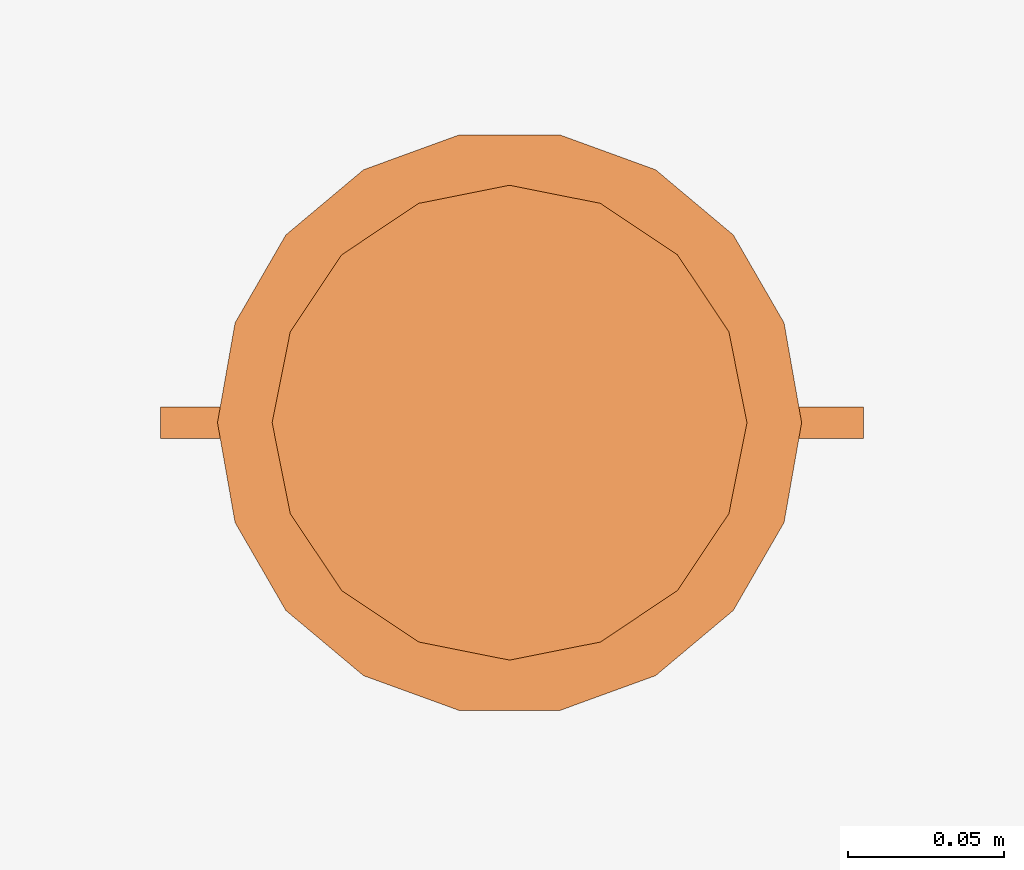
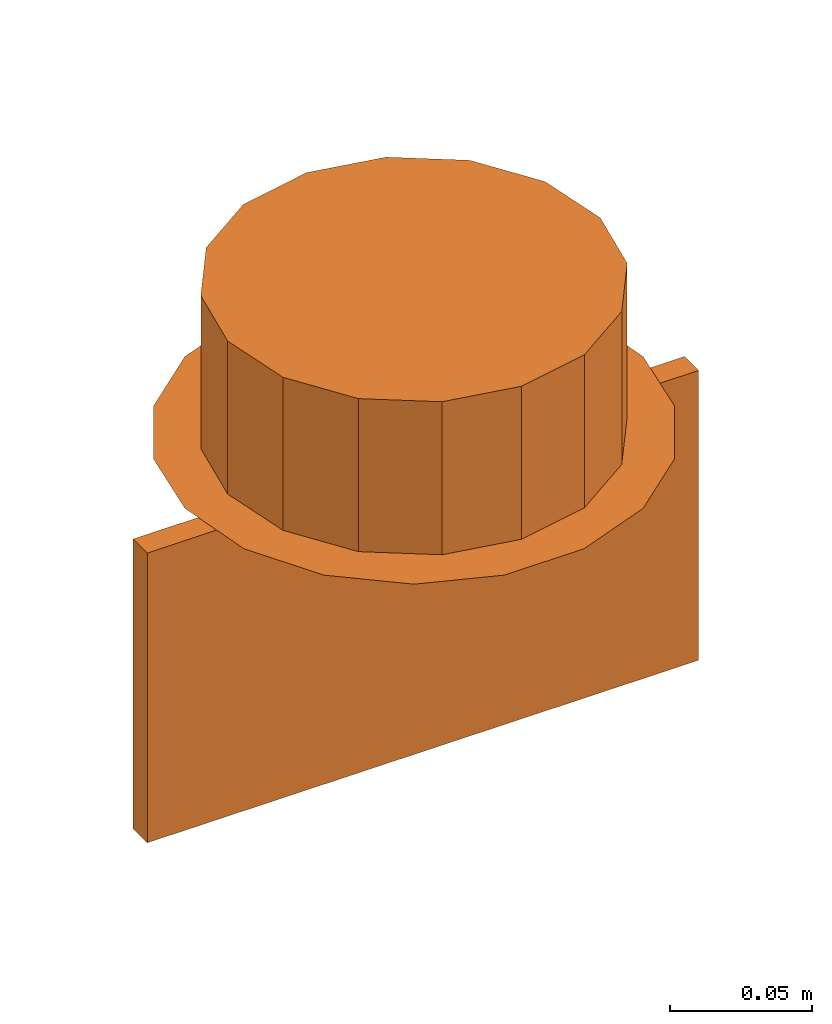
# One storey, part 97 of 197: 1 proxy.
"""IFC2X3 building model written with IfcOpenShell, lengths in metres."""

from ifc_helpers import new_model, entity, si_unit, converted_unit, direction, frame, origin, place, context, subcontext, project, spatial, faceted_brep, source, transform, mapped, material, material_list, type_object, type_shapes, element, save


model = new_model("IFC2X3")

# Units and contexts
model_context = context("Model", 3, precision=1e-05, world=origin(), true_north=direction((6.123031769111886e-17, 1.0)))
body_context = subcontext(model_context, "Body", "Model", "MODEL_VIEW")
ifc_project = project(units=[si_unit("LENGTHUNIT", "METRE"), converted_unit("PLANEANGLEUNIT", "DEGREE", entity("IfcPlaneAngleMeasure", 0.017453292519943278), si_unit("PLANEANGLEUNIT", "RADIAN"), dimensions=[0, 0, 0, 0, 0, 0, 0]), si_unit("AREAUNIT", "SQUARE_METRE")], contexts=[model_context])

# Site, building, storey
site_placement = place(None, origin())
site = spatial("IfcSite", under=ifc_project, at=site_placement, Name="Default", CompositionType="ELEMENT")
building_placement = place(site_placement, origin())
building = spatial("IfcBuilding", under=site, at=building_placement, CompositionType="ELEMENT")
storey_placement = place(building_placement, origin())
storey = spatial("IfcBuildingStorey", under=building, at=storey_placement, Name="Niveau 0", CompositionType="ELEMENT", Elevation=0.0)

# Proxy
ifc_material_1 = material(Name="BETCE-ENVELOPPE-BLANC")
ifc_material_2 = material(Name="BETCE-ETIQUETTE-VERT 0-193-0")
ifc_material_3 = material(Name="BETCE-VITRE BAES-BLEU")
ifc_material_4 = material(Name="BETCE-ETIQUETTE-BLANC")
ifc_material_list = material_list([ifc_material_1, ifc_material_2, ifc_material_3, ifc_material_4])
building_element_proxy_type = type_object("IfcBuildingElementProxyType", Name="Eclairage de sécurité encastré plafond:GAUCHE/DROITE", PredefinedType="NOTDEFINED", material=ifc_material_list)
shared_shape = source(origin(), body_context, "Body", "Brep", [
    faceted_brep([(0.09026619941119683, -0.005, -0.07238797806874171), (0.0632380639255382, -0.005, -0.0413056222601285), (0.03620992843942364, -0.005, -0.04130562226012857), (0.05383697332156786, -0.005, -0.0615767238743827), (0.00918179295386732, -0.005, -0.06157672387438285), (0.009181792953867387, -0.005, -0.08319923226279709), (0.05383697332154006, -0.005, -0.08319923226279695), (0.036209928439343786, -0.005, -0.10347033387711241), (0.06323806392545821, -0.005, -0.10347033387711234), (0.06323806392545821, 0.005, -0.10347033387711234), (0.09026619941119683, 0.005, -0.07238797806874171), (0.036209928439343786, 0.005, -0.10347033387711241), (0.05383697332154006, 0.005, -0.08319923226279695), (0.009181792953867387, 0.005, -0.08319923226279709), (0.00918179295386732, 0.005, -0.06157672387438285), (0.05383697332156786, 0.005, -0.0615767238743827), (0.03620992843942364, 0.005, -0.04130562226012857), (0.0632380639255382, 0.005, -0.0413056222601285)], [[[0, 1, 2, 3, 4, 5, 6, 7, 8]], [[0, 8, 9, 10]], [[8, 7, 11, 9]], [[7, 6, 12, 11]], [[6, 5, 13, 12]], [[5, 4, 14, 13]], [[4, 3, 15, 14]], [[3, 2, 16, 15]], [[2, 1, 17, 16]], [[1, 0, 10, 17]], [[10, 9, 11, 12, 13, 14, 15, 16, 17]]]),
    faceted_brep([(-0.08981404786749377, 0.005, -0.07238797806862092), (-0.06278591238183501, 0.005, -0.041305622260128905), (-0.035757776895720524, 0.005, -0.041305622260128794), (-0.053384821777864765, 0.005, -0.061576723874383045), (-0.008729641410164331, 0.005, -0.06157672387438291), (-0.008729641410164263, 0.005, -0.08319923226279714), (-0.05338482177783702, 0.005, -0.0831992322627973), (-0.0357577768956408, 0.005, -0.10347033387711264), (-0.06278591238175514, 0.005, -0.10347033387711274), (-0.06278591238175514, -0.005, -0.10347033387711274), (-0.08981404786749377, -0.005, -0.07238797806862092), (-0.0357577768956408, -0.005, -0.10347033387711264), (-0.05338482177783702, -0.005, -0.0831992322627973), (-0.008729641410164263, -0.005, -0.08319923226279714), (-0.008729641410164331, -0.005, -0.06157672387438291), (-0.053384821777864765, -0.005, -0.061576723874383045), (-0.035757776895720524, -0.005, -0.041305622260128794), (-0.06278591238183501, -0.005, -0.041305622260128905)], [[[0, 1, 2, 3, 4, 5, 6, 7, 8]], [[9, 10, 0, 8]], [[11, 9, 8, 7]], [[12, 11, 7, 6]], [[13, 12, 6, 5]], [[14, 13, 5, 4]], [[15, 14, 4, 3]], [[16, 15, 3, 2]], [[17, 16, 2, 1]], [[10, 17, 1, 0]], [[10, 9, 11, 12, 13, 14, 15, 16, 17]]]),
    faceted_brep([(-0.10171973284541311, -0.005, -0.01988797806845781), (-0.10171973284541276, -0.005, -0.12488797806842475), (0.10328026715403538, -0.005, -0.12488797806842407), (0.10328026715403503, -0.005, -0.019887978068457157), (0.09026619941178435, -0.005, -0.07238797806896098), (0.06323806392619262, -0.005, -0.10347033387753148), (0.036209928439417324, -0.005, -0.10347033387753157), (0.053836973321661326, -0.005, -0.08319923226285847), (0.009181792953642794, -0.005, -0.08319923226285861), (0.009181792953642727, -0.005, -0.06157672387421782), (0.05383697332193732, -0.005, -0.0615767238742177), (0.036209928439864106, -0.005, -0.04130562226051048), (0.06323806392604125, -0.005, -0.04130562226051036), (-0.08981404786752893, -0.005, -0.07238797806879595), (-0.06278591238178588, -0.005, -0.041305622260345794), (-0.03575777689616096, -0.005, -0.041305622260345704), (-0.053384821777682, -0.005, -0.06157672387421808), (-0.008729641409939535, -0.005, -0.061576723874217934), (-0.008729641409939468, -0.005, -0.08319923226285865), (-0.05338482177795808, -0.005, -0.0831992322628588), (-0.03575777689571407, -0.005, -0.10347033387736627), (-0.06278591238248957, -0.005, -0.10347033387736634), (-0.10171973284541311, 0.005, -0.01988797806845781), (0.10328026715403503, 0.005, -0.019887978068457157), (0.10328026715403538, 0.005, -0.12488797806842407), (-0.10171973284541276, 0.005, -0.12488797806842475), (0.09026619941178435, 0.005, -0.07238797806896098), (0.06323806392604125, 0.005, -0.04130562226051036), (0.036209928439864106, 0.005, -0.04130562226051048), (0.05383697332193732, 0.005, -0.0615767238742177), (0.009181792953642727, 0.005, -0.06157672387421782), (0.009181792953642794, 0.005, -0.08319923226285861), (0.053836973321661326, 0.005, -0.08319923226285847), (0.036209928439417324, 0.005, -0.10347033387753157), (0.06323806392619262, 0.005, -0.10347033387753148), (-0.08981404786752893, 0.005, -0.07238797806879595), (-0.06278591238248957, 0.005, -0.10347033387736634), (-0.03575777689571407, 0.005, -0.10347033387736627), (-0.05338482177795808, 0.005, -0.0831992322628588), (-0.008729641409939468, 0.005, -0.08319923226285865), (-0.008729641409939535, 0.005, -0.061576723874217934), (-0.053384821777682, 0.005, -0.06157672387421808), (-0.03575777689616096, 0.005, -0.041305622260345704), (-0.06278591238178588, 0.005, -0.041305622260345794)], [[[0, 1, 2, 3], [4, 5, 6, 7, 8, 9, 10, 11, 12], [13, 14, 15, 16, 17, 18, 19, 20, 21]], [[22, 23, 24, 25], [26, 27, 28, 29, 30, 31, 32, 33, 34], [35, 36, 37, 38, 39, 40, 41, 42, 43]], [[0, 3, 23, 22]], [[3, 2, 24, 23]], [[2, 1, 25, 24]], [[1, 0, 22, 25]], [[4, 12, 27, 26]], [[12, 11, 28, 27]], [[11, 10, 29, 28]], [[10, 9, 30, 29]], [[9, 8, 31, 30]], [[8, 7, 32, 31]], [[7, 6, 33, 32]], [[6, 5, 34, 33]], [[5, 4, 26, 34]], [[14, 13, 35, 43]], [[15, 14, 43, 42]], [[16, 15, 42, 41]], [[17, 16, 41, 40]], [[18, 17, 40, 39]], [[19, 18, 39, 38]], [[20, 19, 38, 37]], [[21, 20, 37, 36]], [[13, 21, 36, 35]]]),
    faceted_brep([(0.11328026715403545, -0.005, -0.1348879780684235), (0.11328026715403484, -0.005, -0.009887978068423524), (0.0015830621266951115, -0.005, -0.009887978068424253), (-0.11171973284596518, -0.005, -0.009887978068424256), (-0.11171973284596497, -0.005, -0.13488797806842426), (0.004466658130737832, -0.005, -0.13488797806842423), (0.00022607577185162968, -0.005, -0.019887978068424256), (0.10328026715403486, -0.005, -0.01988797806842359), (0.10328026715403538, -0.005, -0.1248879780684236), (0.0037881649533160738, -0.005, -0.12488797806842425), (-0.10171973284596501, -0.005, -0.12488797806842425), (-0.10171973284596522, -0.005, -0.019887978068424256), (0.11328026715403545, 0.005, -0.1348879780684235), (0.004466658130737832, 0.005, -0.13488797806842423), (-0.11171973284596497, 0.005, -0.13488797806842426), (-0.11171973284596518, 0.005, -0.009887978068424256), (0.0015830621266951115, 0.005, -0.009887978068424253), (0.11328026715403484, 0.005, -0.009887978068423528), (0.00022607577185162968, 0.005, -0.019887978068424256), (-0.10171973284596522, 0.005, -0.019887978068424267), (-0.10171973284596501, 0.005, -0.12488797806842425), (0.0037881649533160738, 0.005, -0.12488797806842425), (0.10328026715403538, 0.005, -0.1248879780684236), (0.10328026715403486, 0.005, -0.01988797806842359)], [[[0, 1, 2, 3, 4, 5], [6, 7, 8, 9, 10, 11]], [[12, 13, 14, 15, 16, 17], [18, 19, 20, 21, 22, 23]], [[0, 5, 13, 12]], [[5, 4, 14, 13]], [[4, 3, 15, 14]], [[3, 2, 16, 15]], [[2, 1, 17, 16]], [[1, 0, 12, 17]], [[6, 11, 19, 18]], [[11, 10, 20, 19]], [[10, 9, 21, 20]], [[9, 8, 22, 21]], [[8, 7, 23, 22]], [[7, 6, 18, 23]]]),
    faceted_brep([(0.0, 0.0, -0.01), (-0.07199999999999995, 0.0, -0.00999999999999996), (-0.06925966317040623, 0.013776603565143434, -0.010000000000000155), (-0.06651932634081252, 0.027553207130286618, -0.009999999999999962), (-0.0587155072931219, 0.03923244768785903, -0.01000000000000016), (-0.050911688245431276, 0.05091168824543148, -0.009999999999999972), (-0.039232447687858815, 0.05871550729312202, -0.010000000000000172), (-0.02755320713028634, 0.0665193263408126, -0.009999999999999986), (-0.01377660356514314, 0.06925966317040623, -0.010000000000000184), (0.0, 0.0719999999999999, -0.01), (0.013776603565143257, 0.0692596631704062, -0.010000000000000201), (0.027553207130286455, 0.06651932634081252, -0.010000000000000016), (0.03923244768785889, 0.0587155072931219, -0.010000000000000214), (0.05091168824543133, 0.0509116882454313, -0.010000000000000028), (0.058715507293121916, 0.039232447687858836, -0.010000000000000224), (0.06651932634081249, 0.02755320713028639, -0.010000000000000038), (0.06925966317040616, 0.013776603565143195, -0.010000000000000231), (0.07199999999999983, 0.0, -0.01000000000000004), (0.06925966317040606, -0.013776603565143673, -0.010000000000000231), (-0.06925966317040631, -0.013776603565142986, -0.010000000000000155), (-0.06651932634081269, -0.027553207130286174, -0.009999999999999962), (-0.05871550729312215, -0.039232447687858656, -0.01000000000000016), (-0.0509116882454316, -0.05091168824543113, -0.009999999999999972), (-0.03923244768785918, -0.05871550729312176, -0.010000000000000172), (-0.027553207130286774, -0.06651932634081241, -0.009999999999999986), (-0.013776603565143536, -0.06925966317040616, -0.010000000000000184), (0.0, -0.0719999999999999, -0.01), (0.06651932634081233, -0.027553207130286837, -0.010000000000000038), (0.058715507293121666, -0.03923244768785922, -0.010000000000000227), (0.050911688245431, -0.05091168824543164, -0.010000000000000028), (0.03923244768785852, -0.05871550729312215, -0.010000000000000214), (0.02755320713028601, -0.06651932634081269, -0.010000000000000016), (0.013776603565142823, -0.06925966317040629, -0.010000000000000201), (0.0665193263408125, 0.02755320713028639, 0.0), (0.06841057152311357, 0.018045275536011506, 0.0), (0.07199999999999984, 0.0, 0.0), (0.050911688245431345, 0.05091168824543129, 0.0), (0.05871550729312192, 0.03923244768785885, 0.0), (-0.07199999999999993, 0.0, 0.0), (-0.06925966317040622, 0.013776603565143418, 0.0), (-0.0665193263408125, 0.027553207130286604, 0.0), (0.027553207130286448, 0.0665193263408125, 0.0), (0.0392324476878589, 0.0587155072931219, 0.0), (0.0, 0.07199999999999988, 0.0), (0.013776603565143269, 0.0692596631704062, 0.0), (-0.027553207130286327, 0.06651932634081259, 0.0), (-0.013776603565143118, 0.06925966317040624, 0.0), (-0.05871550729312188, 0.039232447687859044, 0.0), (-0.05091168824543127, 0.05091168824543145, 0.0), (-0.03923244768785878, 0.058715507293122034, 0.0), (-0.06651932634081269, -0.027553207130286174, 0.0), (-0.06841057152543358, -0.018045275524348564, 0.0), (-0.050911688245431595, -0.05091168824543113, 0.0), (-0.05871550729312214, -0.039232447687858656, 0.0), (0.06925966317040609, -0.013776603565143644, 0.0), (0.06651932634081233, -0.027553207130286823, 0.0), (-0.02755320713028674, -0.06651932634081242, 0.0), (-0.039232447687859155, -0.058715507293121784, 0.0), (0.0, -0.07199999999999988, 0.0), (-0.013776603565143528, -0.06925966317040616, 0.0), (0.027553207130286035, -0.06651932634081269, 0.0), (0.013776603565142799, -0.0692596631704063, 0.0), (0.05871550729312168, -0.0392324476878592, 0.0), (0.05091168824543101, -0.05091168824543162, 0.0), (0.039232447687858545, -0.05871550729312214, 0.0), (0.0, 0.0, 0.0)], [[[0, 1, 2]], [[0, 2, 3]], [[0, 3, 4]], [[0, 4, 5]], [[0, 5, 6]], [[0, 6, 7]], [[0, 7, 8]], [[0, 8, 9]], [[0, 9, 10]], [[0, 10, 11]], [[0, 11, 12]], [[0, 12, 13]], [[0, 13, 14]], [[0, 14, 15]], [[0, 15, 16]], [[0, 16, 17]], [[0, 17, 18]], [[0, 19, 1]], [[0, 20, 19]], [[0, 21, 20]], [[0, 22, 21]], [[0, 23, 22]], [[0, 24, 23]], [[0, 25, 24]], [[0, 26, 25]], [[0, 18, 27]], [[0, 27, 28]], [[0, 28, 29]], [[0, 29, 30]], [[0, 30, 31]], [[0, 31, 32]], [[0, 32, 26]], [[15, 33, 34, 35, 17, 16]], [[15, 14, 13, 36, 37, 33]], [[2, 1, 38, 39, 40, 3]], [[13, 12, 11, 41, 42, 36]], [[43, 44, 41, 11, 10, 9]], [[9, 8, 7, 45, 46, 43]], [[47, 48, 5, 4, 3, 40]], [[7, 6, 5, 48, 49, 45]], [[20, 50, 51, 38, 1, 19]], [[20, 21, 22, 52, 53, 50]], [[18, 17, 35, 54, 55, 27]], [[22, 23, 24, 56, 57, 52]], [[58, 59, 56, 24, 25, 26]], [[26, 32, 31, 60, 61, 58]], [[62, 63, 29, 28, 27, 55]], [[31, 30, 29, 63, 64, 60]], [[65, 40, 39]], [[65, 39, 38]], [[65, 38, 51]], [[65, 47, 40]], [[65, 48, 47]], [[65, 49, 48]], [[65, 45, 49]], [[65, 46, 45]], [[65, 43, 46]], [[65, 44, 43]], [[65, 41, 44]], [[65, 42, 41]], [[65, 36, 42]], [[65, 37, 36]], [[65, 33, 37]], [[65, 34, 33]], [[65, 35, 34]], [[65, 51, 50]], [[65, 50, 53]], [[65, 53, 52]], [[65, 52, 57]], [[65, 57, 56]], [[65, 56, 59]], [[65, 59, 58]], [[65, 58, 61]], [[65, 54, 35]], [[65, 55, 54]], [[65, 62, 55]], [[65, 63, 62]], [[65, 64, 63]], [[65, 60, 64]], [[65, 61, 60]]]),
    faceted_brep([(0.09350000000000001, 0.0, 0.0), (0.07310742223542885, 0.014541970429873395, -0.010000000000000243), (0.08786126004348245, 0.03197888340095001, 0.0), (0.06197747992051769, 0.04141202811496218, -0.010000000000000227), (0.0716251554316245, 0.06010064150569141, 0.0), (0.046750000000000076, 0.080973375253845, 0.0), (0.05374011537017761, 0.05374011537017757, -0.010000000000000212), (0.041412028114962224, 0.06197747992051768, -0.010000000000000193), (0.029083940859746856, 0.07021484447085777, -0.010000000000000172), (0.07021484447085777, 0.029083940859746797, -0.01000000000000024), (0.01623610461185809, 0.09207952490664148, 0.0), (-0.046749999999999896, 0.08097337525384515, 0.0), (-0.029083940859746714, 0.07021484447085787, -0.010000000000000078), (-0.041412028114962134, 0.0619774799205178, -0.010000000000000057), (-0.05374011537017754, 0.05374011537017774, -0.010000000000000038), (-0.08786126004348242, 0.03197888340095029, 0.0), (-0.07021484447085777, 0.02908394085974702, -0.01000000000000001), (-0.07310742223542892, 0.01454197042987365, -0.010000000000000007), (-0.016236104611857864, 0.09207952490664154, 0.0), (0.0, 0.07600000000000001, -0.010000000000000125), (-0.014541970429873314, 0.07310742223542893, -0.010000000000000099), (0.014541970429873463, 0.07310742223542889, -0.010000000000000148), (-0.09350000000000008, 0.0, 0.0), (-0.07600000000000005, 0.0, -0.010000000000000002), (-0.061977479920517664, 0.04141202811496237, -0.010000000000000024), (0.07599999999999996, 0.0, -0.010000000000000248), (-0.07162515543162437, 0.06010064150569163, 0.0), (-0.073107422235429, -0.01454197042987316, -0.010000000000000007), (-0.08786126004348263, -0.031978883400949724, 0.0), (-0.061977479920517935, -0.04141202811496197, -0.010000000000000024), (-0.07162515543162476, -0.06010064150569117, 0.0), (-0.04675000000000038, -0.08097337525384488, 0.0), (-0.053740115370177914, -0.053740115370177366, -0.010000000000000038), (-0.04141202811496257, -0.061977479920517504, -0.010000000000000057), (-0.02908394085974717, -0.07021484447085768, -0.010000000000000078), (-0.07021484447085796, -0.029083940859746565, -0.01000000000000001), (-0.016236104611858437, -0.09207952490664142, 0.0), (-0.014541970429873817, -0.07310742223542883, -0.010000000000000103), (0.0, -0.07600000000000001, -0.010000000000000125), (0.016236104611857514, -0.09207952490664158, 0.0), (0.014541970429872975, -0.07310742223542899, -0.010000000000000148), (0.029083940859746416, -0.07021484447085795, -0.010000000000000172), (0.07021484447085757, -0.029083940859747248, -0.01000000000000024), (0.08786126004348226, -0.03197888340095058, 0.0), (0.0619774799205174, -0.041412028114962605, -0.010000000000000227), (0.05374011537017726, -0.053740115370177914, -0.010000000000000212), (0.04674999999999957, -0.08097337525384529, 0.0), (0.041412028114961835, -0.06197747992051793, -0.010000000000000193), (0.07310742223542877, -0.014541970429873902, -0.010000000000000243), (0.07162515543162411, -0.06010064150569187, 0.0), (-0.07600000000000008, 0.0, 0.0), (-0.0731074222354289, 0.014541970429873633, 0.0), (-0.07021484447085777, 0.029083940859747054, 0.0), (-0.07310742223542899, -0.014541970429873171, 0.0), (-0.07021484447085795, -0.029083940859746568, 0.0), (-0.061977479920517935, -0.041412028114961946, 0.0), (-0.05374011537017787, -0.0537401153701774, 0.0), (-0.04141202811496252, -0.061977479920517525, 0.0), (-0.029083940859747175, -0.07021484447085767, 0.0), (-0.014541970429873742, -0.07310742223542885, 0.0), (0.0, -0.07600000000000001, 0.0), (0.014541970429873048, -0.07310742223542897, 0.0), (0.02908394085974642, -0.07021484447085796, 0.0), (0.04141202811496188, -0.061977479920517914, 0.0), (0.05374011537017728, -0.053740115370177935, 0.0), (0.061977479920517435, -0.041412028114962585, 0.0), (0.0702148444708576, -0.029083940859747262, 0.0), (0.07310742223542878, -0.01454197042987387, 0.0), (0.07599999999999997, 0.0, 0.0), (0.07310742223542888, 0.014541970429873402, 0.0), (0.07021484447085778, 0.029083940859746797, 0.0), (0.0619774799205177, 0.041412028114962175, 0.0), (0.05374011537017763, 0.053740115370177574, 0.0), (0.04141202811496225, 0.06197747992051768, 0.0), (0.02908394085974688, 0.07021484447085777, 0.0), (0.01454197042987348, 0.07310742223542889, 0.0), (0.0, 0.07600000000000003, 0.0), (-0.014541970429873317, 0.07310742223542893, 0.0), (-0.02908394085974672, 0.07021484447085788, 0.0), (-0.05374011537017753, 0.05374011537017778, 0.0), (-0.04141202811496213, 0.061977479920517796, 0.0), (-0.06197747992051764, 0.041412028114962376, 0.0), (0.07021484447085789, 0.029083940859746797, 0.06599999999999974), (0.0730353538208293, 0.014904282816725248, 0.06599999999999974), (0.07600000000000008, 0.0, 0.06599999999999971), (-0.029083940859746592, 0.07021484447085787, 0.06599999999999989), (-0.053740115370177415, 0.05374011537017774, 0.06599999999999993), (-0.041412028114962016, 0.061977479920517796, 0.0659999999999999), (0.05374011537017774, 0.05374011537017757, 0.06599999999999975), (0.06197747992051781, 0.04141202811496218, 0.06599999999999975), (0.041412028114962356, 0.06197747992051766, 0.06599999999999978), (0.029083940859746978, 0.07021484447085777, 0.0659999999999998), (0.0, 0.07600000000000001, 0.06599999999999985), (0.014541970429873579, 0.07310742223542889, 0.06599999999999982), (-0.07021484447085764, 0.02908394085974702, 0.06599999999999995), (-0.06197747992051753, 0.041412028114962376, 0.06599999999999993), (-0.0730353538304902, 0.014904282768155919, 0.06599999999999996), (-0.07599999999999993, 0.0, 0.06599999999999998), (-0.014541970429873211, 0.07310742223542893, 0.06599999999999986), (-0.07021484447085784, -0.029083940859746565, 0.06599999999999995), (-0.07303535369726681, -0.01490428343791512, 0.06599999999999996), (-0.029083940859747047, -0.07021484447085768, 0.06599999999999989), (0.0, -0.07600000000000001, 0.06599999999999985), (-0.014541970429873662, -0.07310742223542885, 0.06599999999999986), (-0.05374011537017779, -0.053740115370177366, 0.06599999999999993), (-0.04141202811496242, -0.061977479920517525, 0.0659999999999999), (-0.061977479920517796, -0.04141202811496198, 0.06599999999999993), (0.053740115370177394, -0.053740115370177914, 0.06599999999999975), (0.04141202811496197, -0.06197747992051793, 0.06599999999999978), (0.029083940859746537, -0.07021484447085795, 0.0659999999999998), (0.0702148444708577, -0.029083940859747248, 0.06599999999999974), (0.06197747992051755, -0.04141202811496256, 0.06599999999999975), (0.014541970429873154, -0.07310742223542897, 0.06599999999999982), (0.07303535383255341, -0.014904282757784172, 0.06599999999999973), (0.0, 0.0, 0.06599999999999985), (-0.07199999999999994, 0.0, -0.01), (-0.06925966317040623, 0.013776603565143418, -0.010000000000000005), (-0.06841057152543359, -0.018045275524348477, -0.010000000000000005), (-0.06651932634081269, -0.027553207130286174, -0.010000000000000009), (-0.05871550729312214, -0.03923244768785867, -0.010000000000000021), (-0.0509116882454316, -0.05091168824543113, -0.010000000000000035), (-0.039232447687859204, -0.05871550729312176, -0.010000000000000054), (-0.027553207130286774, -0.06651932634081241, -0.010000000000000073), (-0.013776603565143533, -0.06925966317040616, -0.010000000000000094), (0.0, -0.0719999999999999, -0.010000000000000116), (0.013776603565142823, -0.06925966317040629, -0.010000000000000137), (0.02755320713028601, -0.06651932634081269, -0.010000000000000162), (0.039232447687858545, -0.05871550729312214, -0.01000000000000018), (0.050911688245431, -0.05091168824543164, -0.0100000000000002), (0.058715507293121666, -0.03923244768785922, -0.010000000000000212), (0.06651932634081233, -0.027553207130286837, -0.010000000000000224), (0.06925966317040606, -0.013776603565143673, -0.01000000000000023), (0.07199999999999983, 0.0, -0.010000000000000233), (0.06841057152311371, 0.01804527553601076, -0.010000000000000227), (0.06651932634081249, 0.02755320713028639, -0.010000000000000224), (0.058715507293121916, 0.039232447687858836, -0.010000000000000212), (0.05091168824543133, 0.0509116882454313, -0.0100000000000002), (0.03923244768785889, 0.0587155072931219, -0.01000000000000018), (0.027553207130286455, 0.06651932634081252, -0.010000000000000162), (0.013776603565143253, 0.0692596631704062, -0.010000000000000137), (0.0, 0.0719999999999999, -0.010000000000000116), (-0.01377660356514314, 0.06925966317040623, -0.010000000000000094), (-0.02755320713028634, 0.0665193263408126, -0.010000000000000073), (-0.039232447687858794, 0.05871550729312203, -0.010000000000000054), (-0.050911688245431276, 0.05091168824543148, -0.010000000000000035), (-0.05871550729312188, 0.039232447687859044, -0.010000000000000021), (-0.06651932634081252, 0.027553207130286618, -0.010000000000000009), (0.0, 0.0, 0.0), (-0.07199999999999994, 0.0, 0.0), (-0.06841057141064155, 0.018045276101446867, 0.0), (-0.0665193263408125, 0.027553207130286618, 0.0), (-0.05871550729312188, 0.03923244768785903, 0.0), (-0.050911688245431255, 0.05091168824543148, 0.0), (-0.03923244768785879, 0.05871550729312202, 0.0), (-0.027553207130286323, 0.0665193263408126, 0.0), (-0.013776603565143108, 0.06925966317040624, 0.0), (0.0, 0.0719999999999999, 0.0), (0.01377660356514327, 0.0692596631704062, 0.0), (0.02755320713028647, 0.06651932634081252, 0.0), (0.03923244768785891, 0.0587155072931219, 0.0), (0.05091168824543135, 0.0509116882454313, 0.0), (0.05871550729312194, 0.039232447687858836, 0.0), (0.06651932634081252, 0.02755320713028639, 0.0), (0.06925966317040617, 0.013776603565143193, 0.0), (0.07199999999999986, 0.0, 0.0), (0.06841057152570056, -0.01804527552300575, 0.0), (-0.0692596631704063, -0.01377660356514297, 0.0), (-0.06651932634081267, -0.027553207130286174, 0.0), (-0.05871550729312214, -0.039232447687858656, 0.0), (-0.05091168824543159, -0.05091168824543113, 0.0), (-0.03923244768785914, -0.058715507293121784, 0.0), (-0.027553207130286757, -0.06651932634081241, 0.0), (-0.013776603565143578, -0.06925966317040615, 0.0), (0.0, -0.0719999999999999, 0.0), (0.06651932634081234, -0.027553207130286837, 0.0), (0.05871550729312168, -0.03923244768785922, 0.0), (0.05091168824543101, -0.05091168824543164, 0.0), (0.03923244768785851, -0.05871550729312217, 0.0), (0.027553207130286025, -0.06651932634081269, 0.0), (0.013776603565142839, -0.06925966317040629, 0.0)], [[[0, 1, 2]], [[2, 3, 4]], [[5, 6, 7, 8]], [[3, 2, 9]], [[8, 10, 5]], [[6, 5, 4]], [[11, 12, 13, 14]], [[15, 16, 17]], [[18, 19, 20, 12]], [[21, 19, 10, 8]], [[3, 6, 4]], [[1, 9, 2]], [[22, 17, 23]], [[24, 16, 15]], [[12, 11, 18]], [[1, 0, 25]], [[11, 14, 26]], [[17, 22, 15]], [[24, 15, 26]], [[19, 18, 10]], [[26, 14, 24]], [[22, 27, 28]], [[28, 29, 30]], [[31, 32, 33, 34]], [[27, 35, 28]], [[29, 28, 35]], [[34, 36, 31]], [[32, 31, 30]], [[37, 38, 36, 34]], [[39, 38, 40, 41]], [[29, 32, 30]], [[27, 22, 23]], [[42, 43, 44]], [[45, 46, 41, 47]], [[0, 48, 25]], [[41, 46, 39]], [[49, 44, 43]], [[46, 45, 49]], [[0, 43, 48]], [[43, 42, 48]], [[38, 39, 36]], [[49, 45, 44]], [[15, 22, 50]], [[15, 50, 51]], [[15, 51, 52]], [[15, 52, 26]], [[22, 28, 50]], [[28, 53, 50]], [[28, 54, 53]], [[54, 28, 30]], [[30, 55, 54]], [[30, 56, 55]], [[56, 30, 31]], [[31, 57, 56]], [[31, 58, 57]], [[36, 58, 31]], [[36, 59, 58]], [[36, 60, 59]], [[39, 60, 36]], [[39, 61, 60]], [[39, 62, 61]], [[46, 62, 39]], [[46, 63, 62]], [[46, 64, 63]], [[49, 64, 46]], [[49, 65, 64]], [[49, 66, 65]], [[49, 43, 66]], [[43, 67, 66]], [[43, 68, 67]], [[68, 43, 0]], [[68, 0, 2]], [[2, 69, 68]], [[2, 70, 69]], [[4, 70, 2]], [[4, 71, 70]], [[4, 72, 71]], [[4, 5, 72]], [[5, 73, 72]], [[5, 74, 73]], [[74, 5, 10]], [[10, 75, 74]], [[10, 76, 75]], [[76, 10, 18]], [[18, 77, 76]], [[18, 78, 77]], [[11, 78, 18]], [[26, 79, 11]], [[11, 79, 80]], [[11, 80, 78]], [[26, 52, 81]], [[26, 81, 79]], [[70, 82, 83, 84, 68, 69]], [[85, 78, 80, 79, 86, 87]], [[71, 72, 88, 89, 82, 70]], [[90, 88, 72, 73, 74, 91]], [[92, 93, 91, 74, 75, 76]], [[52, 94, 95, 86, 79, 81]], [[96, 94, 52, 51, 50, 97]], [[98, 92, 76, 77, 78, 85]], [[54, 99, 100, 97, 50, 53]], [[101, 58, 59, 60, 102, 103]], [[104, 56, 57, 58, 101, 105]], [[56, 104, 106, 99, 54, 55]], [[64, 107, 108, 109, 62, 63]], [[66, 110, 111, 107, 64, 65]], [[102, 60, 61, 62, 109, 112]], [[84, 113, 110, 66, 67, 68]], [[114, 94, 96]], [[114, 96, 97]], [[114, 97, 100]], [[114, 95, 94]], [[114, 86, 95]], [[114, 87, 86]], [[114, 85, 87]], [[114, 98, 85]], [[114, 92, 98]], [[114, 93, 92]], [[114, 91, 93]], [[114, 90, 91]], [[114, 88, 90]], [[114, 89, 88]], [[114, 82, 89]], [[114, 83, 82]], [[114, 84, 83]], [[114, 100, 99]], [[114, 99, 106]], [[114, 106, 104]], [[114, 104, 105]], [[114, 105, 101]], [[114, 101, 103]], [[114, 103, 102]], [[114, 102, 112]], [[114, 113, 84]], [[114, 110, 113]], [[114, 111, 110]], [[114, 107, 111]], [[114, 108, 107]], [[114, 109, 108]], [[114, 112, 109]], [[115, 23, 17]], [[115, 17, 16]], [[16, 116, 115]], [[115, 27, 23]], [[115, 35, 27]], [[35, 115, 117]], [[35, 117, 118]], [[118, 29, 35]], [[118, 32, 29]], [[32, 118, 119]], [[32, 119, 120]], [[120, 33, 32]], [[120, 34, 33]], [[34, 120, 121]], [[34, 121, 122]], [[122, 37, 34]], [[122, 38, 37]], [[38, 122, 123]], [[38, 123, 124]], [[38, 124, 125]], [[38, 125, 126]], [[126, 40, 38]], [[126, 41, 40]], [[41, 126, 127]], [[41, 127, 128]], [[128, 47, 41]], [[128, 45, 47]], [[45, 128, 129]], [[45, 129, 130]], [[130, 44, 45]], [[130, 42, 44]], [[42, 130, 131]], [[42, 131, 132]], [[132, 48, 42]], [[132, 25, 48]], [[132, 1, 25]], [[132, 9, 1]], [[9, 132, 133]], [[9, 133, 134]], [[134, 3, 9]], [[134, 6, 3]], [[6, 134, 135]], [[6, 135, 136]], [[136, 7, 6]], [[136, 8, 7]], [[8, 136, 137]], [[8, 137, 138]], [[138, 21, 8]], [[138, 19, 21]], [[19, 138, 139]], [[19, 139, 140]], [[19, 140, 141]], [[19, 141, 142]], [[142, 20, 19]], [[142, 12, 20]], [[12, 142, 143]], [[12, 143, 144]], [[144, 13, 12]], [[144, 14, 13]], [[14, 144, 145]], [[14, 145, 146]], [[146, 16, 24]], [[16, 146, 116]], [[146, 24, 14]], [[147, 148, 149]], [[147, 149, 150]], [[147, 150, 151]], [[147, 151, 152]], [[147, 152, 153]], [[147, 153, 154]], [[147, 154, 155]], [[147, 155, 156]], [[147, 156, 157]], [[147, 157, 158]], [[147, 158, 159]], [[147, 159, 160]], [[147, 160, 161]], [[147, 161, 162]], [[147, 162, 163]], [[147, 163, 164]], [[147, 164, 165]], [[147, 166, 148]], [[147, 167, 166]], [[147, 168, 167]], [[147, 169, 168]], [[147, 170, 169]], [[147, 171, 170]], [[147, 172, 171]], [[147, 173, 172]], [[147, 165, 174]], [[147, 174, 175]], [[147, 175, 176]], [[147, 176, 177]], [[147, 177, 178]], [[147, 178, 179]], [[147, 179, 173]], [[133, 132, 164, 163, 162, 134]], [[136, 135, 134, 162, 161, 160]], [[141, 140, 156, 155, 154, 142]], [[159, 158, 138, 137, 136, 160]], [[139, 138, 158, 157, 156, 140]], [[143, 142, 154, 153, 152, 144]], [[116, 146, 150, 149, 148, 115]], [[146, 145, 144, 152, 151, 150]], [[117, 115, 148, 166, 167, 118]], [[120, 119, 118, 167, 168, 169]], [[125, 124, 173, 179, 178, 126]], [[170, 171, 122, 121, 120, 169]], [[123, 122, 171, 172, 173, 124]], [[127, 126, 178, 177, 176, 128]], [[131, 130, 174, 165, 164, 132]], [[130, 129, 128, 176, 175, 174]]]),
])
type_shapes(building_element_proxy_type, [shared_shape])
proxy_placement = place(storey_placement, frame((-491.19159512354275, 108.81535778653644, 1.4999999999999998)))
element("IfcBuildingElementProxy", 1, at=proxy_placement, inside=storey, type_object=building_element_proxy_type, material=ifc_material_list, Name="Eclairage de sécurité encastré plafond:GAUCHE/DROITE", ObjectType="Eclairage de sécurité encastré plafond:GAUCHE/DROITE", context=body_context, shape_type="MappedRepresentation", body=[
    mapped(shared_shape, transform((0.0, 0.0, 0.0), scale=1.0)),
])

save(model, "model.ifc")
